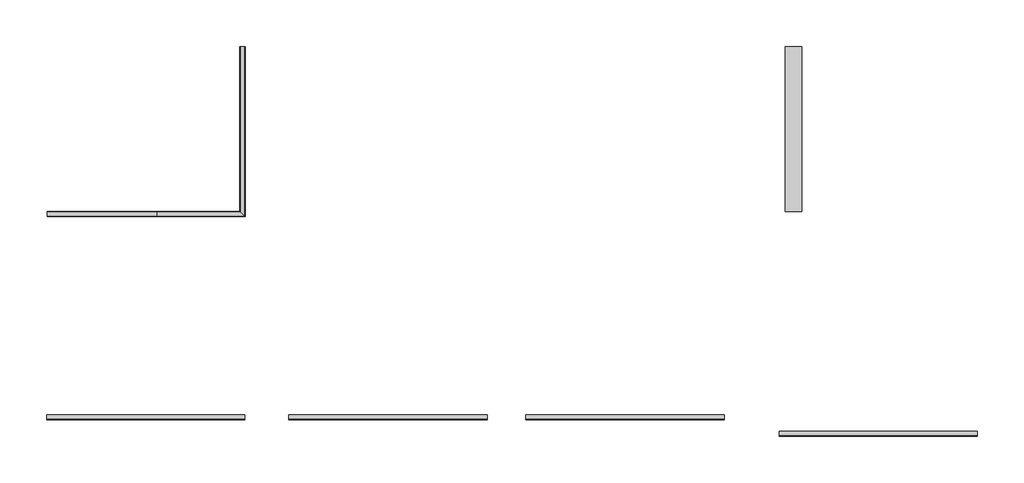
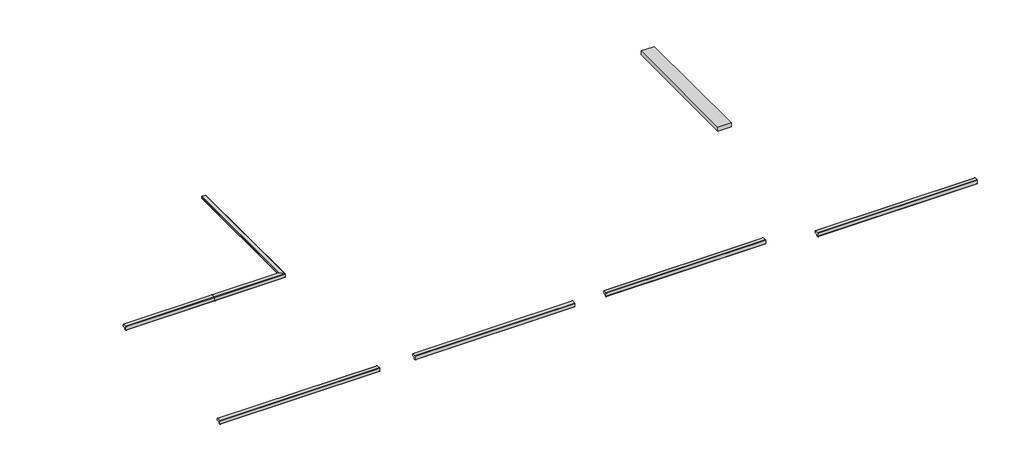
# One storey, incomplete: 6 proxies.
"""IFC4 building model written with IfcOpenShell, lengths in millimetres."""

from ifc_helpers import new_model, si_unit, point, frame, frame_2d, origin, place, context, project, spatial, polyline, circle_curve, ellipse_curve, trimmed, segment, composite_curve, outline, extrude, element, save
from ifc_brep_helpers import plane_surface, cylinder_surface, revolved_surface, advanced_brep

model = new_model("IFC4")

# Units and contexts
model_context = context("Model", 3, world=origin())
ifc_project = project(units=[si_unit("LENGTHUNIT", "METRE", prefix="MILLI")], contexts=[model_context])

# Site, building, storey
site = spatial("IfcSite", under=ifc_project)
building = spatial("IfcBuilding", under=site)
storey = spatial("IfcBuildingStorey", under=building, Name="Level 04 - T.O. Fnd. Wall", Elevation=-304.8)

# Proxies
placement = place(None, origin())
element("IfcBuildingElementProxy", 1, Name="NewTechWood - Westminister Gray - Trim", ObjectType="NewTechWood - Westminister Gray - Trim", at=placement, inside=storey, context=model_context, shape_type="AdvancedBrep", body=[
    advanced_brep(
    [(-12154.6837996, 10380.0152204, -12.7), (-12154.6837996, 10381.0074079, -11.7078125), (-11773.6837996, 10381.0074079, -11.7078125), (-11772.6916121, 10380.0152204, -12.7), (-12154.6837996, 10367.1346564, -12.7), (-11759.811048, 10367.1346564, -12.7), (-12154.6837996, 10365.1324079, -14.7022484), (-11757.8087996, 10365.1324079, -14.7022484), (-12154.6837996, 10365.1324079, -21.2328125), (-11757.8087996, 10365.1324079, -21.2328125), (-12154.6837996, 10364.1402204, -22.225), (-11756.8166121, 10364.1402204, -22.225), (-12154.6837996, 10358.1870954, -22.225), (-11750.8634871, 10358.1870954, -22.225), (-12154.6837996, 10357.1949079, -21.2328125), (-11749.8712996, 10357.1949079, -21.2328125), (-12154.6837996, 10357.1949079, -2.0022484), (-11749.8712996, 10357.1949079, -2.0022484), (-12154.6837996, 10359.1971564, 0.0), (-11751.873548, 10359.1971564, 0.0), (-12154.6837996, 10380.0152204, 0.0), (-11772.6916121, 10380.0152204, 0.0), (-12154.6837996, 10381.0074079, -0.9921875), (-11773.6837996, 10381.0074079, -0.9921875), (-11772.6916121, 11143.0074079, -12.7), (-11773.6837996, 11143.0074079, -11.7078125), (-11773.6837996, 11143.0074079, -0.9921875), (-11772.6916121, 11143.0074079, 0.0), (-11751.873548, 11143.0074079, 0.0), (-11749.8712996, 11143.0074079, -2.0022484), (-11749.8712996, 11143.0074079, -21.2328125), (-11750.8634871, 11143.0074079, -22.225), (-11756.8166121, 11143.0074079, -22.225), (-11757.8087996, 11143.0074079, -21.2328125), (-11757.8087996, 11143.0074079, -14.7022484), (-11759.811048, 11143.0074079, -12.7), (-12662.6837996, 10381.0074079, -11.7078125), (-12662.6837996, 10380.0152204, -12.7), (-12662.6837996, 10367.1346564, -12.7), (-12662.6837996, 10365.1324079, -14.7022484), (-12662.6837996, 10365.1324079, -21.2328125), (-12662.6837996, 10364.1402204, -22.225), (-12662.6837996, 10358.1870954, -22.225), (-12662.6837996, 10357.1949079, -21.2328125), (-12662.6837996, 10357.1949079, -2.0022484), (-12662.6837996, 10359.1971564, 0.0), (-12662.6837996, 10380.0152204, 0.0), (-12662.6837996, 10381.0074079, -0.9921875)],
    [
        (0, 1, circle_curve(frame((-12154.6837996, 10380.0152204, -11.7078125), z_axis=(1.0, 0.0, 0.0), x_axis=(0.0, -1.0, 0.0)), 0.9921875)),
        (1, 2),
        (2, 3, ellipse_curve(frame((-11772.6916121, 10380.0152204, -11.7078125), z_axis=(-0.7071067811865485, -0.7071067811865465, 0.0), x_axis=(-0.7071067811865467, 0.7071067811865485, 0.0)), 1.403165, 0.9921875)),
        (3, 0),
        (4, 0),
        (3, 5),
        (5, 4),
        (6, 4, circle_curve(frame((-12154.6837996, 10367.1346564, -14.7022484), z_axis=(-1.0, 0.0, 0.0), x_axis=(0.0, -1.0, 0.0)), 2.0022484)),
        (5, 7, ellipse_curve(frame((-11759.811048, 10367.1346564, -14.7022484), z_axis=(0.7071067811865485, 0.7071067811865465, 0.0), x_axis=(0.7071067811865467, -0.7071067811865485, 0.0)), 2.8316069, 2.0022484)),
        (7, 6),
        (8, 6),
        (7, 9),
        (9, 8),
        (10, 8, circle_curve(frame((-12154.6837996, 10364.1402204, -21.2328125), z_axis=(1.0, 0.0, 0.0), x_axis=(0.0, -1.0, 0.0)), 0.9921875)),
        (9, 11, ellipse_curve(frame((-11756.8166121, 10364.1402204, -21.2328125), z_axis=(-0.7071067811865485, -0.7071067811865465, 0.0), x_axis=(-0.7071067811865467, 0.7071067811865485, 0.0)), 1.403165, 0.9921875)),
        (11, 10),
        (12, 10),
        (11, 13),
        (13, 12),
        (14, 12, circle_curve(frame((-12154.6837996, 10358.1870954, -21.2328125), z_axis=(1.0, 0.0, 0.0), x_axis=(0.0, 1.0, 0.0)), 0.9921875)),
        (13, 15, ellipse_curve(frame((-11750.8634871, 10358.1870954, -21.2328125), z_axis=(-0.7071067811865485, -0.7071067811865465, 0.0), x_axis=(-0.7071067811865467, 0.7071067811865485, 0.0)), 1.403165, 0.9921875)),
        (15, 14),
        (16, 14),
        (15, 17),
        (17, 16),
        (18, 16, circle_curve(frame((-12154.6837996, 10359.1971564, -2.0022484), z_axis=(1.0, 0.0, 0.0), x_axis=(0.0, -1.0, 0.0)), 2.0022484)),
        (17, 19, ellipse_curve(frame((-11751.873548, 10359.1971564, -2.0022484), z_axis=(-0.7071067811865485, -0.7071067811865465, 0.0), x_axis=(-0.7071067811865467, 0.7071067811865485, 0.0)), 2.8316069, 2.0022484)),
        (19, 18),
        (20, 18),
        (19, 21),
        (21, 20),
        (22, 20, circle_curve(frame((-12154.6837996, 10380.0152204, -0.9921875), z_axis=(1.0, 0.0, 0.0), x_axis=(0.0, -1.0, 0.0)), 0.9921875)),
        (21, 23, ellipse_curve(frame((-11772.6916121, 10380.0152204, -0.9921875), z_axis=(-0.7071067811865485, -0.7071067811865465, 0.0), x_axis=(-0.7071067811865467, 0.7071067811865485, 0.0)), 1.403165, 0.9921875)),
        (23, 22),
        (1, 22),
        (23, 2),
        (24, 25, circle_curve(frame((-11772.6916121, 11143.0074079, -11.7078125), z_axis=(0.0, 1.0, 0.0), x_axis=(1.0, 0.0, 0.0)), 0.9921875)),
        (25, 26),
        (26, 27, circle_curve(frame((-11772.6916121, 11143.0074079, -0.9921875), z_axis=(0.0, 1.0, 0.0), x_axis=(1.0, 0.0, 0.0)), 0.9921875)),
        (27, 28),
        (28, 29, circle_curve(frame((-11751.873548, 11143.0074079, -2.0022484), z_axis=(0.0, 1.0, 0.0), x_axis=(1.0, 0.0, 0.0)), 2.0022484)),
        (29, 30),
        (30, 31, circle_curve(frame((-11750.8634871, 11143.0074079, -21.2328125), z_axis=(0.0, 1.0, 0.0), x_axis=(-1.0, 0.0, 0.0)), 0.9921875)),
        (31, 32),
        (32, 33, circle_curve(frame((-11756.8166121, 11143.0074079, -21.2328125), z_axis=(0.0, 1.0, 0.0), x_axis=(1.0, 0.0, 0.0)), 0.9921875)),
        (33, 34),
        (34, 35, circle_curve(frame((-11759.811048, 11143.0074079, -14.7022484), z_axis=(0.0, -1.0, 0.0), x_axis=(1.0, 0.0, 0.0)), 2.0022484)),
        (35, 24),
        (2, 25),
        (24, 3),
        (35, 5),
        (34, 7),
        (33, 9),
        (32, 11),
        (31, 13),
        (30, 15),
        (29, 17),
        (28, 19),
        (27, 21),
        (26, 23),
        (36, 37, circle_curve(frame((-12662.6837996, 10380.0152204, -11.7078125), z_axis=(-1.0, 0.0, 0.0), x_axis=(0.0, -1.0, 0.0)), 0.9921875)),
        (37, 38),
        (38, 39, circle_curve(frame((-12662.6837996, 10367.1346564, -14.7022484), z_axis=(1.0, 0.0, 0.0), x_axis=(0.0, -1.0, 0.0)), 2.0022484)),
        (39, 40),
        (40, 41, circle_curve(frame((-12662.6837996, 10364.1402204, -21.2328125), z_axis=(-1.0, 0.0, 0.0), x_axis=(0.0, -1.0, 0.0)), 0.9921875)),
        (41, 42),
        (42, 43, circle_curve(frame((-12662.6837996, 10358.1870954, -21.2328125), z_axis=(-1.0, 0.0, 0.0), x_axis=(0.0, 1.0, 0.0)), 0.9921875)),
        (43, 44),
        (44, 45, circle_curve(frame((-12662.6837996, 10359.1971564, -2.0022484), z_axis=(-1.0, 0.0, 0.0), x_axis=(0.0, -1.0, 0.0)), 2.0022484)),
        (45, 46),
        (46, 47, circle_curve(frame((-12662.6837996, 10380.0152204, -0.9921875), z_axis=(-1.0, 0.0, 0.0), x_axis=(0.0, -1.0, 0.0)), 0.9921875)),
        (47, 36),
        (0, 37),
        (36, 1),
        (4, 38),
        (6, 39),
        (8, 40),
        (10, 41),
        (12, 42),
        (14, 43),
        (16, 44),
        (18, 45),
        (20, 46),
        (22, 47),
    ],
    [
        cylinder_surface(frame((-12154.6837996, 10380.0152204, -11.7078125), z_axis=(-1.0, 0.0, 0.0), x_axis=(0.0, -1.0, 0.0)), 0.9921875),
        plane_surface(frame((-12154.6837996, 10380.0152204, -12.7), z_axis=(0.0, 0.0, -1.0), x_axis=(1.0, 0.0, 0.0))),
        revolved_surface(polyline([(-11757.808799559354, 10365.132408, -14.7022484), (-12154.6837996, 10365.132408, -14.7022484)]), (-12154.6837996, 10367.1346564, -14.7022484), (1.0, 0.0, 0.0)),
        plane_surface(frame((-12154.6837996, 10365.1324079, -14.7022484), z_axis=(0.0, 1.0, 0.0), x_axis=(1.0, 0.0, 0.0))),
        cylinder_surface(frame((-12154.6837996, 10364.1402204, -21.2328125), z_axis=(-1.0, 0.0, 0.0), x_axis=(0.0, -1.0, 0.0)), 0.9921875),
        plane_surface(frame((-12154.6837996, 10364.1402204, -22.225), z_axis=(0.0, 0.0, -1.0), x_axis=(1.0, 0.0, 0.0))),
        cylinder_surface(frame((-12154.6837996, 10358.1870954, -21.2328125), z_axis=(-1.0, 0.0, 0.0), x_axis=(0.0, 1.0, 0.0)), 0.9921875),
        plane_surface(frame((-12154.6837996, 10357.1949079, -21.2328125), z_axis=(0.0, -1.0, 0.0), x_axis=(1.0, 0.0, 0.0))),
        cylinder_surface(frame((-12154.6837996, 10359.1971564, -2.0022484), z_axis=(-1.0, 0.0, 0.0), x_axis=(0.0, -1.0, 0.0)), 2.0022484),
        plane_surface(frame((-12154.6837996, 10359.1971564, 0.0), z_axis=(0.0, 0.0, 1.0), x_axis=(1.0, 0.0, 0.0))),
        cylinder_surface(frame((-12154.6837996, 10380.0152204, -0.9921875), z_axis=(-1.0, 0.0, 0.0), x_axis=(0.0, -1.0, 0.0)), 0.9921875),
        plane_surface(frame((-12154.6837996, 10381.0074079, -0.9921875), z_axis=(0.0, 1.0, 0.0), x_axis=(1.0, 0.0, 0.0))),
        plane_surface(frame((-11805.845846, 11143.0074079, 0.0), z_axis=(0.0, 1.0, 0.0), x_axis=(0.0, 0.0, 1.0))),
        cylinder_surface(frame((-11772.6916121, 10381.0074079, -11.7078125), z_axis=(0.0, -1.0, 0.0), x_axis=(1.0, 0.0, 0.0)), 0.9921875),
        plane_surface(frame((-11772.6916121, 10380.0152204, -12.7), z_axis=(0.0, 0.0, -1.0), x_axis=(0.0, 1.0, 0.0))),
        revolved_surface(polyline([(-11757.8087996, 11143.0074079, -14.7022484), (-11757.8087996, 10365.1324079, -14.7022484)]), (-11759.811048, 10381.0074079, -14.7022484), (0.0, 1.0, 0.0)),
        plane_surface(frame((-11757.8087996, 10365.1324079, -14.7022484), z_axis=(-1.0, 0.0, 0.0), x_axis=(0.0, 1.0, 0.0))),
        cylinder_surface(frame((-11756.8166121, 10381.0074079, -21.2328125), z_axis=(0.0, -1.0, 0.0), x_axis=(1.0, 0.0, 0.0)), 0.9921875),
        plane_surface(frame((-11756.8166121, 10364.1402204, -22.225), z_axis=(0.0, 0.0, -1.0), x_axis=(0.0, 1.0, 0.0))),
        cylinder_surface(frame((-11750.8634871, 10381.0074079, -21.2328125), z_axis=(0.0, -1.0, 0.0), x_axis=(-1.0, 0.0, 0.0)), 0.9921875),
        plane_surface(frame((-11749.8712996, 10357.1949079, -21.2328125), z_axis=(1.0, 0.0, 0.0), x_axis=(0.0, 1.0, 0.0))),
        cylinder_surface(frame((-11751.873548, 10381.0074079, -2.0022484), z_axis=(0.0, -1.0, 0.0), x_axis=(1.0, 0.0, 0.0)), 2.0022484),
        plane_surface(frame((-11751.873548, 10359.1971564, 0.0), z_axis=(0.0, 0.0, 1.0), x_axis=(0.0, 1.0, 0.0))),
        cylinder_surface(frame((-11772.6916121, 10381.0074079, -0.9921875), z_axis=(0.0, -1.0, 0.0), x_axis=(1.0, 0.0, 0.0)), 0.9921875),
        plane_surface(frame((-11773.6837996, 10381.0074079, -0.9921875), z_axis=(-1.0, 0.0, 0.0), x_axis=(0.0, 1.0, 0.0))),
        plane_surface(frame((-12662.6837996, 10381.0074079, -32.1620464), z_axis=(-1.0, 0.0, 0.0), x_axis=(0.0, 1.0, 0.0))),
        cylinder_surface(frame((-12662.6837996, 10380.0152204, -11.7078125), z_axis=(-1.0, 0.0, 0.0), x_axis=(0.0, -1.0, 0.0)), 0.9921875),
        plane_surface(frame((-12662.6837996, 10380.0152204, -12.7), z_axis=(0.0, 0.0, -1.0), x_axis=(1.0, 0.0, 0.0))),
        revolved_surface(polyline([(-12154.6837996, 10365.132408, -14.7022484), (-12662.6837996, 10365.132408, -14.7022484)]), (-12662.6837996, 10367.1346564, -14.7022484), (1.0, 0.0, 0.0)),
        plane_surface(frame((-12662.6837996, 10365.1324079, -14.7022484), z_axis=(0.0, 1.0, 0.0), x_axis=(1.0, 0.0, 0.0))),
        cylinder_surface(frame((-12662.6837996, 10364.1402204, -21.2328125), z_axis=(-1.0, 0.0, 0.0), x_axis=(0.0, -1.0, 0.0)), 0.9921875),
        plane_surface(frame((-12662.6837996, 10364.1402204, -22.225), z_axis=(0.0, 0.0, -1.0), x_axis=(1.0, 0.0, 0.0))),
        cylinder_surface(frame((-12662.6837996, 10358.1870954, -21.2328125), z_axis=(-1.0, 0.0, 0.0), x_axis=(0.0, 1.0, 0.0)), 0.9921875),
        plane_surface(frame((-12662.6837996, 10357.1949079, -21.2328125), z_axis=(0.0, -1.0, 0.0), x_axis=(1.0, 0.0, 0.0))),
        cylinder_surface(frame((-12662.6837996, 10359.1971564, -2.0022484), z_axis=(-1.0, 0.0, 0.0), x_axis=(0.0, -1.0, 0.0)), 2.0022484),
        plane_surface(frame((-12662.6837996, 10359.1971564, 0.0), z_axis=(0.0, 0.0, 1.0), x_axis=(1.0, 0.0, 0.0))),
        cylinder_surface(frame((-12662.6837996, 10380.0152204, -0.9921875), z_axis=(-1.0, 0.0, 0.0), x_axis=(0.0, -1.0, 0.0)), 0.9921875),
        plane_surface(frame((-12662.6837996, 10381.0074079, -0.9921875), z_axis=(0.0, 1.0, 0.0), x_axis=(1.0, 0.0, 0.0))),
    ],
    [
        (0, [[1, 2, 3, 4]]),
        (1, [[5, -4, 6, 7]]),
        (2, [[8, -7, 9, 10]]),
        (3, [[11, -10, 12, 13]]),
        (4, [[14, -13, 15, 16]]),
        (5, [[17, -16, 18, 19]]),
        (6, [[20, -19, 21, 22]]),
        (7, [[23, -22, 24, 25]]),
        (8, [[26, -25, 27, 28]]),
        (9, [[29, -28, 30, 31]]),
        (10, [[32, -31, 33, 34]]),
        (11, [[35, -34, 36, -2]]),
        (12, [[37, 38, 39, 40, 41, 42, 43, 44, 45, 46, 47, 48]]),
        (13, [[-3, 49, -37, 50]]),
        (14, [[-6, -50, -48, 51]]),
        (15, [[-9, -51, -47, 52]]),
        (16, [[-12, -52, -46, 53]]),
        (17, [[-15, -53, -45, 54]]),
        (18, [[-18, -54, -44, 55]]),
        (19, [[-21, -55, -43, 56]]),
        (20, [[-24, -56, -42, 57]]),
        (21, [[-27, -57, -41, 58]]),
        (22, [[-30, -58, -40, 59]]),
        (23, [[-33, -59, -39, 60]]),
        (24, [[-36, -60, -38, -49]]),
        (25, [[61, 62, 63, 64, 65, 66, 67, 68, 69, 70, 71, 72]]),
        (26, [[-1, 73, -61, 74]]),
        (27, [[-5, 75, -62, -73]]),
        (28, [[-8, 76, -63, -75]]),
        (29, [[-11, 77, -64, -76]]),
        (30, [[-14, 78, -65, -77]]),
        (31, [[-17, 79, -66, -78]]),
        (32, [[-20, 80, -67, -79]]),
        (33, [[-23, 81, -68, -80]]),
        (34, [[-26, 82, -69, -81]]),
        (35, [[-29, 83, -70, -82]]),
        (36, [[-32, 84, -71, -83]]),
        (37, [[-35, -74, -72, -84]]),
    ],
),
])
element("IfcBuildingElementProxy", 2, Name="NewTechWood - Caribbean Blue - Single Slat Deck Tile", ObjectType="NewTechWood - Caribbean Blue - Single Slat Deck Tile", at=placement, inside=storey, context=model_context, shape_type="SweptSolid", body=[
    extrude(outline(polyline([(-9259.0837996, 11143.0074079), (-9182.8837996, 11143.0074079), (-9182.8837996, 10381.0074079), (-9259.0837996, 10381.0074079), (-9259.0837996, 11143.0074079)])), frame((0.0, 0.0, -22.86), z_axis=(0.0, 0.0, 1.0), x_axis=(1.0, 0.0, 0.0)), (0.0, 0.0, 1.0), 22.86),
])
element("IfcBuildingElementProxy", 3, Name="NewTechWood - Westminister Gray - 3 FT - Trim", ObjectType="NewTechWood - Westminister Gray - 3 FT - Trim", at=placement, inside=storey, context=model_context, shape_type="SweptSolid", body=[
    extrude(outline(composite_curve([segment(trimmed(circle_curve(frame_2d((9441.90397, -11.7078125)), 0.9921875), [point((9442.8961575, -11.7078125))], [point((9441.90397, -12.7))], False, "CARTESIAN"), True, "CONTINUOUS"), segment(polyline([(9441.90397, -12.7), (9429.0234059, -12.7)]), True, "CONTINUOUS"), segment(trimmed(circle_curve(frame_2d((9429.0234059, -14.7022484)), 2.0022484), [point((9429.0234059, -12.7))], [point((9427.0211575, -14.7022484))], True, "CARTESIAN"), True, "CONTINUOUS"), segment(polyline([(9427.0211575, -14.7022484), (9427.0211575, -21.2328125)]), True, "CONTINUOUS"), segment(trimmed(circle_curve(frame_2d((9426.02897, -21.2328125)), 0.9921875), [point((9427.0211575, -21.2328125))], [point((9426.02897, -22.225))], False, "CARTESIAN"), True, "CONTINUOUS"), segment(polyline([(9426.02897, -22.225), (9420.075845, -22.225)]), True, "CONTINUOUS"), segment(trimmed(circle_curve(frame_2d((9420.075845, -21.2328125)), 0.9921875), [point((9420.075845, -22.225))], [point((9419.0836575, -21.2328125))], False, "CARTESIAN"), True, "CONTINUOUS"), segment(polyline([(9419.0836575, -21.2328125), (9419.0836575, -2.0022484)]), True, "CONTINUOUS"), segment(trimmed(circle_curve(frame_2d((9421.0859059, -2.0022484)), 2.0022484), [point((9419.0836575, -2.0022484))], [point((9421.0859059, 0.0))], False, "CARTESIAN"), True, "CONTINUOUS"), segment(polyline([(9421.0859059, 0.0), (9441.90397, 0.0)]), True, "CONTINUOUS"), segment(trimmed(circle_curve(frame_2d((9441.90397, -0.9921875)), 0.9921875), [point((9441.90397, 0.0))], [point((9442.8961575, -0.9921875))], False, "CARTESIAN"), True, "CONTINUOUS"), segment(polyline([(9442.8961575, -0.9921875), (9442.8961575, -11.7078125)]), True, "CONTINUOUS")], self_intersect=False)), frame((-12665.6725003, 0.0, 0.0), z_axis=(1.0, 0.0, 0.0), x_axis=(0.0, 1.0, 0.0)), (0.0, 0.0, 1.0), 914.4),
])
element("IfcBuildingElementProxy", 4, Name="NewTechWood - Peruvian Teak - 3 FT - Trim", ObjectType="NewTechWood - Peruvian Teak - 3 FT - Trim", at=placement, inside=storey, context=model_context, shape_type="SweptSolid", body=[
    extrude(outline(composite_curve([segment(trimmed(circle_curve(frame_2d((9441.90397, -11.7078125)), 0.9921875), [point((9442.8961575, -11.7078125))], [point((9441.90397, -12.7))], False, "CARTESIAN"), True, "CONTINUOUS"), segment(polyline([(9441.90397, -12.7), (9429.0234059, -12.7)]), True, "CONTINUOUS"), segment(trimmed(circle_curve(frame_2d((9429.0234059, -14.7022484)), 2.0022484), [point((9429.0234059, -12.7))], [point((9427.0211575, -14.7022484))], True, "CARTESIAN"), True, "CONTINUOUS"), segment(polyline([(9427.0211575, -14.7022484), (9427.0211575, -21.2328125)]), True, "CONTINUOUS"), segment(trimmed(circle_curve(frame_2d((9426.02897, -21.2328125)), 0.9921875), [point((9427.0211575, -21.2328125))], [point((9426.02897, -22.225))], False, "CARTESIAN"), True, "CONTINUOUS"), segment(polyline([(9426.02897, -22.225), (9420.075845, -22.225)]), True, "CONTINUOUS"), segment(trimmed(circle_curve(frame_2d((9420.075845, -21.2328125)), 0.9921875), [point((9420.075845, -22.225))], [point((9419.0836575, -21.2328125))], False, "CARTESIAN"), True, "CONTINUOUS"), segment(polyline([(9419.0836575, -21.2328125), (9419.0836575, -2.0022484)]), True, "CONTINUOUS"), segment(trimmed(circle_curve(frame_2d((9421.0859059, -2.0022484)), 2.0022484), [point((9419.0836575, -2.0022484))], [point((9421.0859059, 0.0))], False, "CARTESIAN"), True, "CONTINUOUS"), segment(polyline([(9421.0859059, 0.0), (9441.90397, 0.0)]), True, "CONTINUOUS"), segment(trimmed(circle_curve(frame_2d((9441.90397, -0.9921875)), 0.9921875), [point((9441.90397, 0.0))], [point((9442.8961575, -0.9921875))], False, "CARTESIAN"), True, "CONTINUOUS"), segment(polyline([(9442.8961575, -0.9921875), (9442.8961575, -11.7078125)]), True, "CONTINUOUS")], self_intersect=False)), frame((-10455.8725003, 0.0, 0.0), z_axis=(1.0, 0.0, 0.0), x_axis=(0.0, 1.0, 0.0)), (0.0, 0.0, 1.0), 914.4),
])
element("IfcBuildingElementProxy", 5, Name="NewTechWood - Brazilian Ipe - 3 FT - Trim", ObjectType="NewTechWood - Brazilian Ipe - 3 FT - Trim", at=placement, inside=storey, context=model_context, shape_type="SweptSolid", body=[
    extrude(outline(composite_curve([segment(trimmed(circle_curve(frame_2d((9365.70397, -11.7078125)), 0.9921875), [point((9366.6961575, -11.7078125))], [point((9365.70397, -12.7))], False, "CARTESIAN"), True, "CONTINUOUS"), segment(polyline([(9365.70397, -12.7), (9352.8234059, -12.7)]), True, "CONTINUOUS"), segment(trimmed(circle_curve(frame_2d((9352.8234059, -14.7022484)), 2.0022484), [point((9352.8234059, -12.7))], [point((9350.8211575, -14.7022484))], True, "CARTESIAN"), True, "CONTINUOUS"), segment(polyline([(9350.8211575, -14.7022484), (9350.8211575, -21.2328125)]), True, "CONTINUOUS"), segment(trimmed(circle_curve(frame_2d((9349.82897, -21.2328125)), 0.9921875), [point((9350.8211575, -21.2328125))], [point((9349.82897, -22.225))], False, "CARTESIAN"), True, "CONTINUOUS"), segment(polyline([(9349.82897, -22.225), (9343.875845, -22.225)]), True, "CONTINUOUS"), segment(trimmed(circle_curve(frame_2d((9343.875845, -21.2328125)), 0.9921875), [point((9343.875845, -22.225))], [point((9342.8836575, -21.2328125))], False, "CARTESIAN"), True, "CONTINUOUS"), segment(polyline([(9342.8836575, -21.2328125), (9342.8836575, -2.0022484)]), True, "CONTINUOUS"), segment(trimmed(circle_curve(frame_2d((9344.8859059, -2.0022484)), 2.0022484), [point((9342.8836575, -2.0022484))], [point((9344.8859059, 0.0))], False, "CARTESIAN"), True, "CONTINUOUS"), segment(polyline([(9344.8859059, 0.0), (9365.70397, 0.0)]), True, "CONTINUOUS"), segment(trimmed(circle_curve(frame_2d((9365.70397, -0.9921875)), 0.9921875), [point((9365.70397, 0.0))], [point((9366.6961575, -0.9921875))], False, "CARTESIAN"), True, "CONTINUOUS"), segment(polyline([(9366.6961575, -0.9921875), (9366.6961575, -11.7078125)]), True, "CONTINUOUS")], self_intersect=False)), frame((-9287.4725003, 0.0, 0.0), z_axis=(1.0, 0.0, 0.0), x_axis=(0.0, 1.0, 0.0)), (0.0, 0.0, 1.0), 914.4),
])
element("IfcBuildingElementProxy", 6, Name="NewTechWood - Roman Antique - 3 FT - Trim", ObjectType="NewTechWood - Roman Antique - 3 FT - Trim", at=placement, inside=storey, context=model_context, shape_type="SweptSolid", body=[
    extrude(outline(composite_curve([segment(trimmed(circle_curve(frame_2d((9441.90397, -11.7078125)), 0.9921875), [point((9442.8961575, -11.7078125))], [point((9441.90397, -12.7))], False, "CARTESIAN"), True, "CONTINUOUS"), segment(polyline([(9441.90397, -12.7), (9429.0234059, -12.7)]), True, "CONTINUOUS"), segment(trimmed(circle_curve(frame_2d((9429.0234059, -14.7022484)), 2.0022484), [point((9429.0234059, -12.7))], [point((9427.0211575, -14.7022484))], True, "CARTESIAN"), True, "CONTINUOUS"), segment(polyline([(9427.0211575, -14.7022484), (9427.0211575, -21.2328125)]), True, "CONTINUOUS"), segment(trimmed(circle_curve(frame_2d((9426.02897, -21.2328125)), 0.9921875), [point((9427.0211575, -21.2328125))], [point((9426.02897, -22.225))], False, "CARTESIAN"), True, "CONTINUOUS"), segment(polyline([(9426.02897, -22.225), (9420.075845, -22.225)]), True, "CONTINUOUS"), segment(trimmed(circle_curve(frame_2d((9420.075845, -21.2328125)), 0.9921875), [point((9420.075845, -22.225))], [point((9419.0836575, -21.2328125))], False, "CARTESIAN"), True, "CONTINUOUS"), segment(polyline([(9419.0836575, -21.2328125), (9419.0836575, -2.0022484)]), True, "CONTINUOUS"), segment(trimmed(circle_curve(frame_2d((9421.0859059, -2.0022484)), 2.0022484), [point((9419.0836575, -2.0022484))], [point((9421.0859059, 0.0))], False, "CARTESIAN"), True, "CONTINUOUS"), segment(polyline([(9421.0859059, 0.0), (9441.90397, 0.0)]), True, "CONTINUOUS"), segment(trimmed(circle_curve(frame_2d((9441.90397, -0.9921875)), 0.9921875), [point((9441.90397, 0.0))], [point((9442.8961575, -0.9921875))], False, "CARTESIAN"), True, "CONTINUOUS"), segment(polyline([(9442.8961575, -0.9921875), (9442.8961575, -11.7078125)]), True, "CONTINUOUS")], self_intersect=False)), frame((-11548.0725003, 0.0, 0.0), z_axis=(1.0, 0.0, 0.0), x_axis=(0.0, 1.0, 0.0)), (0.0, 0.0, 1.0), 914.4),
])

save(model, "model.ifc")
